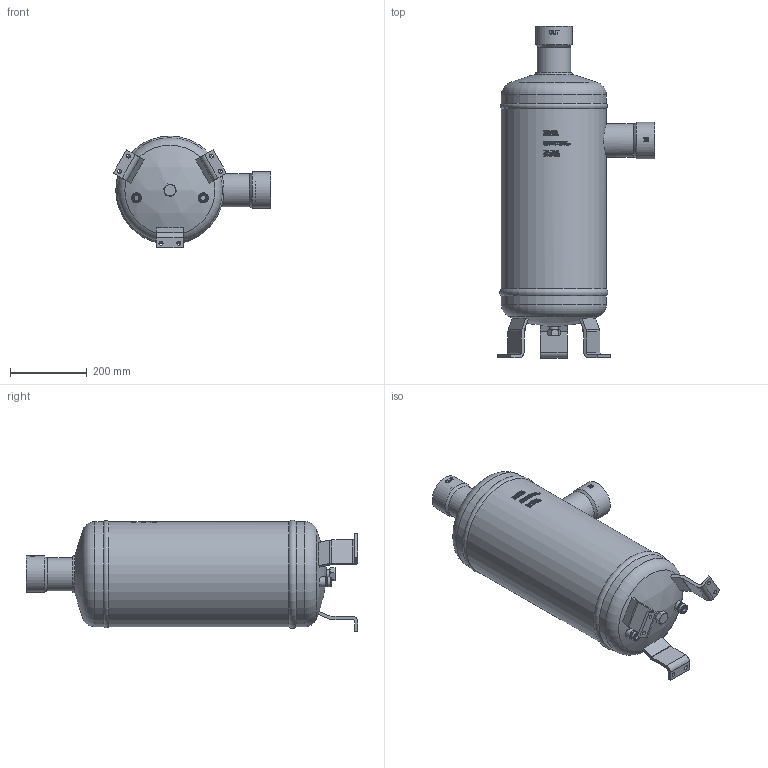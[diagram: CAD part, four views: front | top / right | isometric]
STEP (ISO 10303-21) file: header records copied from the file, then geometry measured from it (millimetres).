
FILE_DESCRIPTION(/* description */ (''),/* implementation_level */ '2;1');
FILE_NAME(/* name */ 'P:\FA\FA-89-32W\FA-89-32W.stp',/* time_stamp */ '2017-10-05T08:06:44+02:00',/* author */ ('neufeld'),/* organization */ (''),/* preprocessor_version */ 'ST-DEVELOPER v16.1',/* originating_system */ 'Autodesk Inventor 2016',/* authorisation */ '');
FILE_SCHEMA (('AUTOMOTIVE_DESIGN { 1 0 10303 214 3 1 1 }'));
Length unit declared in the file: millimetre
Products named in the file (2): FA-89-32W; FA-89-32W_1
Assembly tree (1 placements, depth 2):
  FA-89-32W_1
    FA-89-32W
Bounding box: 409.9 x 863.87 x 290.8 mm (x, y, z)
Volume: 37875264.2 mm3; surface area: 802410.8 mm2
Topology: 1 solids, 3 shells, 1387 faces, 3733 edges, 2478 vertices
Faces by surface type: plane 727, bspline 467, cylinder 161, cone 23, torus 5, sphere 4
Full cylindrical faces by diameter (mm): 10.5 x6, 13.3 x2, 15.1 x2, 15.75 x2, 19.05 x2, 22.5 x5, 23.6 x1, 25.2 x2, 26 x2, 87 x2, 89.3 x2, 95 x2, 273 x1, 273.2 x2
Entity records: 53547 total; most frequent: CARTESIAN_POINT 21366, ORIENTED_EDGE 7326, DIRECTION 5509, EDGE_CURVE 3663, VERTEX_POINT 2462, AXIS2_PLACEMENT_3D 1891, LINE 1727, VECTOR 1727
